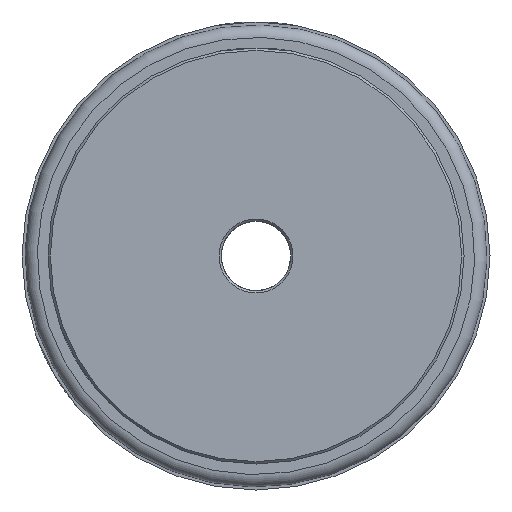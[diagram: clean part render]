
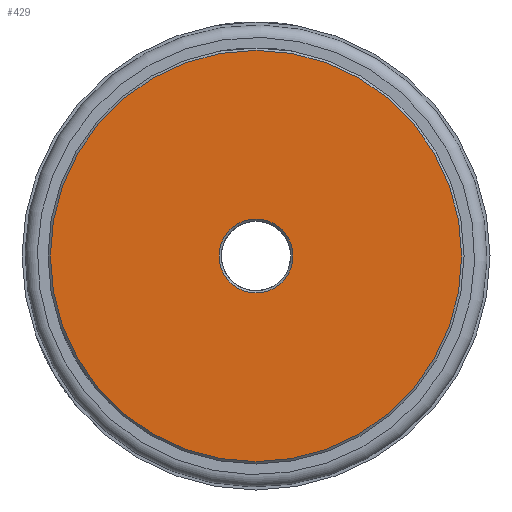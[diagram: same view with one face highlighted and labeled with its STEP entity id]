
A CAD part, left-side view. The second image highlights one B-rep face of the part: STEP entity #429.
In plain terms, the highlighted planar face has unit normal (-1, 0, 0).
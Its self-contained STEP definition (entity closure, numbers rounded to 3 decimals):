
#429 = ADVANCED_FACE( 'NONE', ( #887, #888 ), #889, .F. );
#887 = FACE_OUTER_BOUND( '', #1425, .T. );
#888 = FACE_BOUND( '', #1426, .T. );
#889 = PLANE( '', #1427 );
#1425 = EDGE_LOOP( '', ( #2224 ) );
#1426 = EDGE_LOOP( '', ( #2225 ) );
#1427 = AXIS2_PLACEMENT_3D( '', #2226, #2227, #2228 );
#2224 = ORIENTED_EDGE( '', *, *, #2785, .T. );
#2225 = ORIENTED_EDGE( '', *, *, #2952, .T. );
#2226 = CARTESIAN_POINT( '', ( 0., 18., 0. ) );
#2227 = DIRECTION( '', ( 1., 0., 0. ) );
#2228 = DIRECTION( '', ( 0., 1., 0. ) );
#2785 = EDGE_CURVE( 'NONE', #3194, #3194, #3195, .F. );
#2952 = EDGE_CURVE( 'NONE', #3475, #3475, #3476, .T. );
#3194 = VERTEX_POINT( '', #3786 );
#3195 = CIRCLE( '', #3787, 17.8 );
#3475 = VERTEX_POINT( '', #4361 );
#3476 = CIRCLE( '', #4362, 3.2 );
#3786 = CARTESIAN_POINT( '', ( 0., 0., -17.8 ) );
#3787 = AXIS2_PLACEMENT_3D( '', #4826, #4827, #4828 );
#4361 = CARTESIAN_POINT( '', ( 0., 0., -3.2 ) );
#4362 = AXIS2_PLACEMENT_3D( '', #5113, #5114, #5115 );
#4826 = CARTESIAN_POINT( '', ( 0., 0., 0. ) );
#4827 = DIRECTION( '', ( 1., 0., 0. ) );
#4828 = DIRECTION( '', ( 0., 0., -1. ) );
#5113 = CARTESIAN_POINT( '', ( 0., 0., 0. ) );
#5114 = DIRECTION( '', ( 1., 0., 0. ) );
#5115 = DIRECTION( '', ( 0., 0., -1. ) );
